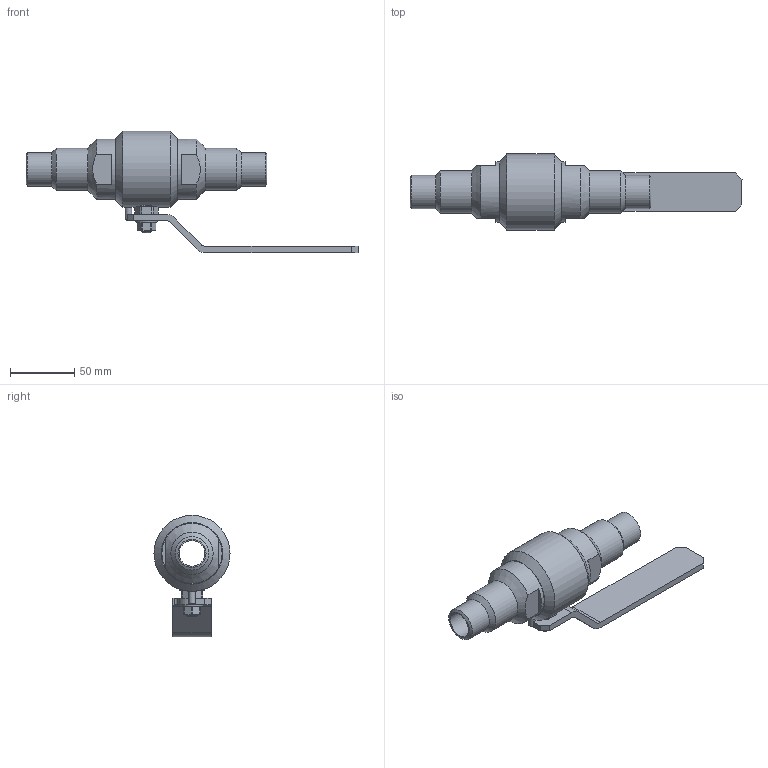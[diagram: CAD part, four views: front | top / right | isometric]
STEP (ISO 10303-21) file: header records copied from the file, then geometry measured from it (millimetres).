
FILE_DESCRIPTION(('STEP AP203'), '1');
FILE_NAME('ZARDP 020.063.40.P.stp', '2013-12-05T11:47:02', ('Øèøêî'), ('Ýíåðïðåä ßðäîñ'), 'ASCON STEP Converter 1.3', 'Kompas 3D', '');
FILE_SCHEMA(('CONFIG_CONTROL_DESIGN','SUPPORT_RESOURCE_SCHEMA'));
Length unit declared in the file: millimetre
Products named in the file (1): 183
Bounding box: 259 x 59.3 x 94.65 mm (x, y, z)
Volume: 215519 mm3; surface area: 56546 mm2
Topology: 1 solids, 3 shells, 160 faces, 368 edges, 227 vertices
Faces by surface type: plane 90, cylinder 43, cone 26, torus 1
Full cylindrical faces by diameter (mm): 5 x2, 8 x1, 10.7 x1, 10.917 x1, 12 x1, 12.1 x1, 19.8 x1, 20 x4, 26 x2, 33 x2, 38.4 x1, 47 x2, 59.3 x1
Entity records: 5601 total; most frequent: CARTESIAN_POINT 1840, DIRECTION 800, ORIENTED_EDGE 736, EDGE_CURVE 368, AXIS2_PLACEMENT_3D 303, VERTEX_POINT 227, LINE 194, VECTOR 194
